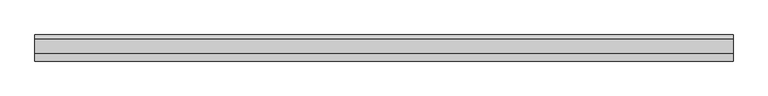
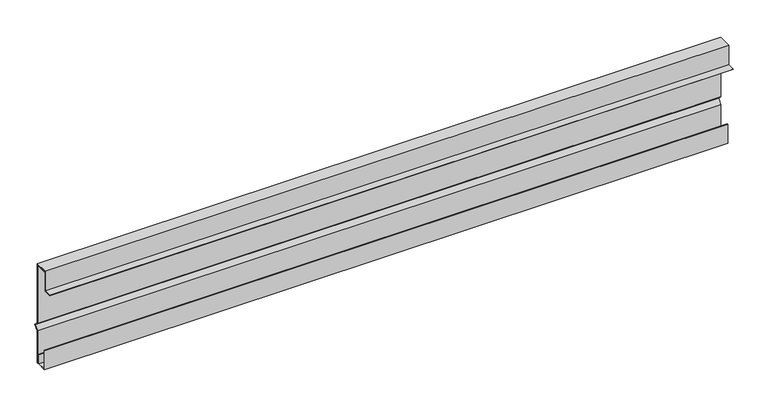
"""IFC4 building model written with IfcOpenShell, lengths in millimetres: proxy geometry, АК9_1 бок Обрамление проема под монтаж рулонных ворот : АК9_1 бок Обрамление проема под монтаж рулонных ворот."""

from ifc_helpers import new_model, si_unit, frame, origin, place, context, project, spatial, polyline, outline, extrude, source, transform, mapped, element, save


def generic_models_743b026b(model_context):
    return source(origin(), model_context, "Body", "SweptSolid", [
        extrude(outline(polyline([(16.5265261, -285.0), (16.5265261, -225.0), (18.5265261, -225.0), (18.5265261, -283.0), (44.5265261, -283.0), (44.5265261, -255.0), (46.5265261, -255.0), (46.5265261, -285.0), (16.5265261, -285.0)])), frame((0.0, 0.0, 0.0), z_axis=(1.0, 0.0, 0.0), x_axis=(0.0, 1.0, 0.0)), (0.0, 0.0, 1.0), 2021.8485149),
        extrude(outline(polyline([(17.5, 22.0), (52.5, 22.0), (52.5, -159.5441559), (65.2279221, -172.2720779), (52.5, -185.0), (52.5, -285.0), (49.5, -285.0), (49.5, -265.0), (50.5, -265.0), (50.5, -284.0), (51.5, -284.0), (51.5, -184.5857864), (63.8137085, -172.2720779), (51.5, -159.9583694), (51.5, 21.0), (17.5, 21.0), (17.5, 22.0)])), frame((0.0, 0.0, 0.0), z_axis=(1.0, 0.0, 0.0), x_axis=(0.0, 1.0, 0.0)), (0.0, 0.0, 1.0), 2021.8485149),
        extrude(outline(polyline([(12.4998566, -36.0), (12.4998566, 24.9999552), (52.4998566, 24.9999552), (52.4998566, 21.9999552), (37.4998566, 21.9999552), (37.4998566, 22.9999552), (51.4998566, 22.9999552), (51.4998566, 23.9999552), (13.4998566, 23.9999552), (13.4998566, -37.0), (-10.5001434, -37.0), (-10.5001434, -36.0), (12.4998566, -36.0)])), frame((0.0, 0.0, 0.0), z_axis=(1.0, 0.0, 0.0), x_axis=(0.0, 1.0, 0.0)), (0.0, 0.0, 1.0), 2021.8485149),
    ])


if __name__ == "__main__":
    model = new_model("IFC4")
    model_context = context("Model", 3, world=origin())
    ifc_project = project(units=[si_unit("LENGTHUNIT", "METRE", prefix="MILLI")], contexts=[model_context])
    site = spatial("IfcSite", under=ifc_project)
    building = spatial("IfcBuilding", under=site)
    placement = place(None, origin())
    generic_models_shape = generic_models_743b026b(model_context)
    element("IfcBuildingElementProxy", 1, Name="АК9_1 бок Обрамление проема под монтаж рулонных ворот : АК9_1 бок Обрамление проема под монтаж рулонных ворот", ObjectType="АК9_1 бок Обрамление проема под монтаж рулонных ворот : АК9_1 бок Обрамление проема под монтаж рулонных ворот", at=placement, inside=building, context=model_context, shape_type="MappedRepresentation", body=[
        mapped(generic_models_shape, transform((0.0, 0.0, 0.0), x_axis=(1.0, 0.0, 0.0), y_axis=(0.0, 1.0, 0.0), z_axis=(0.0, 0.0, 1.0))),
    ])
    save(model, "model.ifc")
